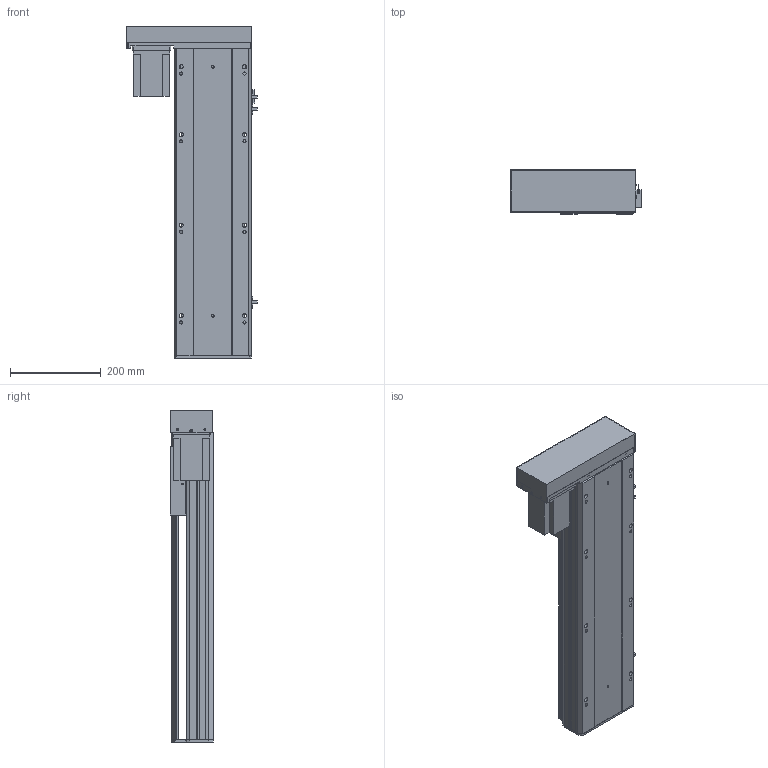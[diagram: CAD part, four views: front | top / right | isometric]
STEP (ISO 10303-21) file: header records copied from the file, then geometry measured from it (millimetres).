
FILE_DESCRIPTION (( 'STEP AP203' ), '1' );
FILE_NAME ('Y170-D10-S450-BL-P750W.STEP', '2020-01-19T22:51:21', ( '微软用户' ), ( '微软中国' ), 'SwSTEP 2.0', 'SolidWorks 2017', '' );
FILE_SCHEMA (( 'CONFIG_CONTROL_DESIGN' ));
Length unit declared in the file: millimetre
Products named in the file (12): Y170-陔遴奻裔-BR; YD-Y100-135-新外置传感挡片(通用）; Y--BL蟀諉啣-陔遴-; Y100-135俋离換覜ん; Y170-D10-S450-BL-P750W; 170--掛极-BR; Y170-BL-P750W楊擘啣; 侂狟750W; EGH20賑輸_蕼偞; Y雄赽釱-耜蚾; Y-BL.BR-俋欶; Y170耜裔--準---
Assembly tree (14 placements, depth 2):
  Y170-D10-S450-BL-P750W
    Y170耜裔--準---
    YD-Y100-135-新外置传感挡片(通用）
    Y100-135俋离換覜ん  x3
    170--掛极-BR
    Y170-BL-P750W楊擘啣
    侂狟750W
    EGH20賑輸_蕼偞  x2
    Y雄赽釱-耜蚾
    Y-BL.BR-俋欶
    Y170-陔遴奻裔-BR
    Y--BL蟀諉啣-陔遴-
Bounding box: 289 x 97 x 733.5 mm (x, y, z)
Volume: 4038240.9 mm3; surface area: 1340161.9 mm2
Topology: 14 solids, 14 shells, 897 faces, 2498 edges, 1648 vertices
Faces by surface type: plane 443, cylinder 438, cone 16
Entity records: 28010 total; most frequent: CARTESIAN_POINT 4846, DIRECTION 4668, ORIENTED_EDGE 4492, EDGE_CURVE 2246, AXIS2_PLACEMENT_3D 1650, VERTEX_POINT 1492, VECTOR 1368, LINE 1368
